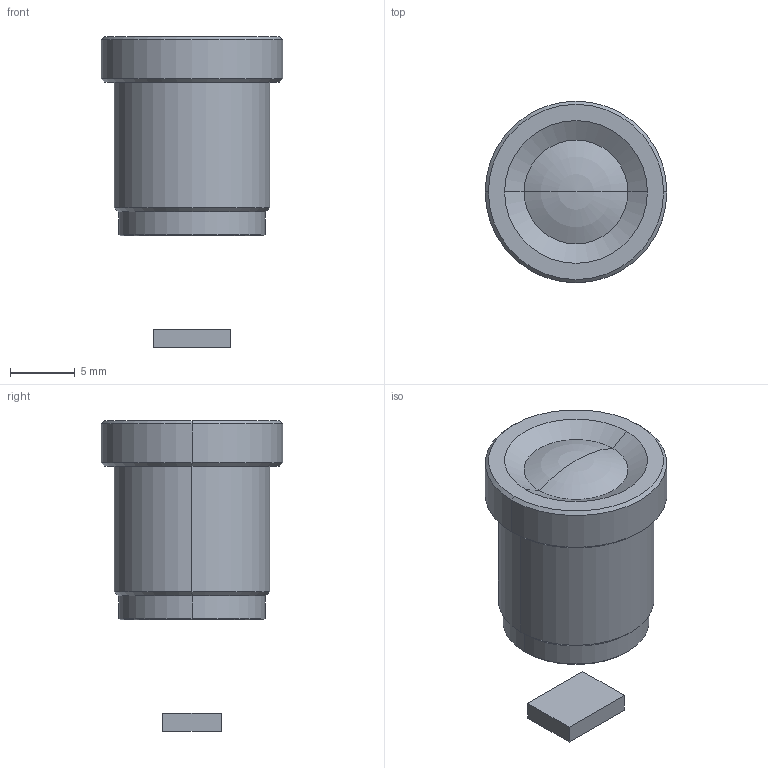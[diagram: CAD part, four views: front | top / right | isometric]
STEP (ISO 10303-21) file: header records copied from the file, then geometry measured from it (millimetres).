
FILE_DESCRIPTION (( 'STEP AP214' ), '1' );
FILE_NAME ('PT-3620.STEP', '2019-12-26T21:52:16', ( '' ), ( '' ), 'SwSTEP 2.0', 'SolidWorks 2018', '' );
FILE_SCHEMA (( 'AUTOMOTIVE_DESIGN' ));
Length unit declared in the file: millimetre
Products named in the file (1): PT-3620
Bounding box: 14 x 14 x 23.95 mm (x, y, z)
Volume: 1835.4 mm3; surface area: 981.8 mm2
Topology: 2 solids, 2 shells, 33 faces, 66 edges, 39 vertices
Faces by surface type: cone 12, plane 11, cylinder 8, torus 2
Entity records: 929 total; most frequent: DIRECTION 164, CARTESIAN_POINT 137, ORIENTED_EDGE 128, AXIS2_PLACEMENT_3D 66, EDGE_CURVE 64, VERTEX_POINT 39, EDGE_LOOP 37, FACE_OUTER_BOUND 33
